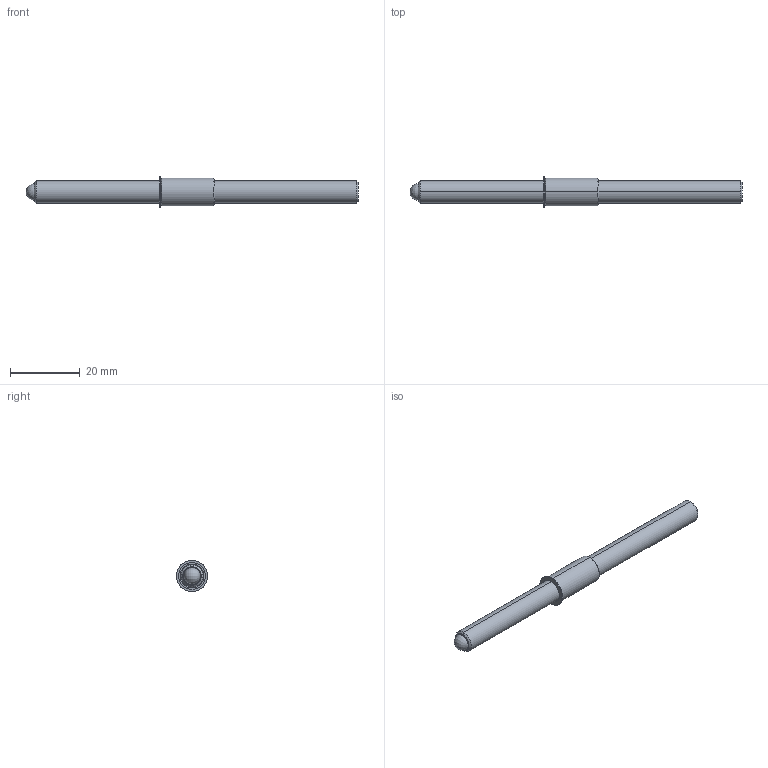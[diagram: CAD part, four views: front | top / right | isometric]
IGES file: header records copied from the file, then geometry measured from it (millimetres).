
Start section: SolidWorks IGES file using analytic representation for surfaces
Global section: file name: C:\Users\workpc\Desktop\KMA Solidworks\TSB250-80-3750_625-AA.IGS; native system: SolidWorks 2013; preprocessor: SolidWorks 2013; author: workpc; date: 130314.091802; units: inch
Bounding box: 95.24 x 8.94 x 8.94 mm (x, y, z)
Surface area: 2432.8 mm2 (no closed solid volume)
Topology: 0 solids, 0 shells, 33 faces, 406 edges, 402 vertices
Faces by surface type: revolution 22, bspline 11
